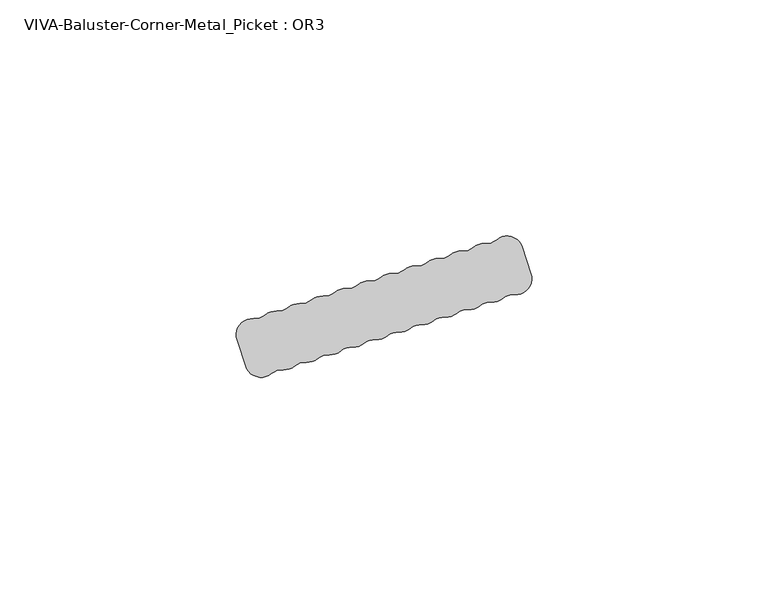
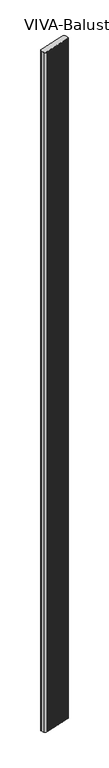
"""IFC4 building model written with IfcOpenShell, lengths in millimetres: railing geometry, VIVA-Baluster-Corner-Metal_Picket : OR3."""

from ifc_helpers import new_model, si_unit, frame, origin, place, context, project, spatial, polyline, circle_curve, source, transform, mapped, element, save
from ifc_brep_helpers import plane_surface, cylinder_surface, revolved_surface, advanced_brep


def viva_baluster_corner_metal_picket_or3_238191d5(model_context):
    return source(origin(), model_context, "Body", "AdvancedBrep", [
        advanced_brep(
        [(54.1877137, 92.323752, 1219.2), (48.7096318, 93.8952548, 1219.2), (46.2617341, 93.0998846, 1219.2), (43.8138364, 92.3045145, 1219.2), (41.3659387, 91.5091443, 1219.2), (38.918041, 90.7137741, 1219.2), (36.4701433, 89.9184039, 1219.2), (34.0222456, 89.1230338, 1219.2), (31.5743479, 88.3276636, 1219.2), (29.1264502, 87.5322934, 1219.2), (26.6785525, 86.7369232, 1219.2), (24.2306548, 85.9415531, 1219.2), (21.7827571, 85.1461829, 1219.2), (19.3348594, 84.3508127, 1219.2), (16.8869617, 83.5554425, 1219.2), (14.439064, 82.7600723, 1219.2), (11.9911663, 81.9647022, 1219.2), (9.5432686, 81.169332, 1219.2), (7.0953709, 80.3739618, 1219.2), (4.6474732, 79.5785916, 1219.2), (2.1995755, 78.7832215, 1219.2), (-0.2483222, 77.9878513, 1219.2), (-2.6962199, 77.1924811, 1219.2), (-6.204375, 72.7011728, 1219.2), (-4.4042945, 67.1610945, 1219.2), (1.0737875, 65.5895916, 1219.2), (3.5216852, 66.3849618, 1219.2), (5.9695829, 67.180332, 1219.2), (8.4174806, 67.9757021, 1219.2), (10.8653783, 68.7710723, 1219.2), (13.313276, 69.5664425, 1219.2), (15.7611737, 70.3618127, 1219.2), (18.2090714, 71.1571828, 1219.2), (20.6569691, 71.952553, 1219.2), (23.1048668, 72.7479232, 1219.2), (25.5527645, 73.5432934, 1219.2), (28.0006622, 74.3386636, 1219.2), (30.4485599, 75.1340337, 1219.2), (32.8964576, 75.9294039, 1219.2), (35.3443553, 76.7247741, 1219.2), (37.792253, 77.5201443, 1219.2), (40.2401507, 78.3155144, 1219.2), (42.6880484, 79.1108846, 1219.2), (45.1359461, 79.9062548, 1219.2), (47.5838438, 80.701625, 1219.2), (50.0317415, 81.4969951, 1219.2), (52.4796392, 82.2923653, 1219.2), (55.9877943, 86.7836736, 1219.2), (54.1877137, 92.323752, -245.8945017), (55.9877943, 86.7836736, -245.8945017), (52.4796392, 82.2923653, -245.8945017), (50.0317415, 81.4969951, -245.8945017), (47.5838438, 80.701625, -245.8945017), (45.1359461, 79.9062548, -245.8945017), (42.6880484, 79.1108846, -245.8945017), (40.2401507, 78.3155144, -245.8945017), (37.792253, 77.5201443, -245.8945017), (35.3443553, 76.7247741, -245.8945017), (32.8964576, 75.9294039, -245.8945017), (30.4485599, 75.1340337, -245.8945017), (28.0006622, 74.3386636, -245.8945017), (25.5527645, 73.5432934, -245.8945017), (23.1048668, 72.7479232, -245.8945017), (20.6569691, 71.952553, -245.8945017), (18.2090714, 71.1571828, -245.8945017), (15.7611737, 70.3618127, -245.8945017), (13.313276, 69.5664425, -245.8945017), (10.8653783, 68.7710723, -245.8945017), (8.4174806, 67.9757021, -245.8945017), (5.9695829, 67.180332, -245.8945017), (3.5216852, 66.3849618, -245.8945017), (1.0737875, 65.5895916, -245.8945017), (-4.4042945, 67.1610945, -245.8945017), (-6.204375, 72.7011728, -245.8945017), (-2.6962199, 77.1924811, -245.8945017), (-0.2483222, 77.9878513, -245.8945017), (2.1995755, 78.7832215, -245.8945017), (4.6474732, 79.5785916, -245.8945017), (7.0953709, 80.3739618, -245.8945017), (9.5432686, 81.169332, -245.8945017), (11.9911663, 81.9647022, -245.8945017), (14.439064, 82.7600723, -245.8945017), (16.8869617, 83.5554425, -245.8945017), (19.3348594, 84.3508127, -245.8945017), (21.7827571, 85.1461829, -245.8945017), (24.2306548, 85.9415531, -245.8945017), (26.6785525, 86.7369232, -245.8945017), (29.1264502, 87.5322934, -245.8945017), (31.5743479, 88.3276636, -245.8945017), (34.0222456, 89.1230338, -245.8945017), (36.4701433, 89.9184039, -245.8945017), (38.918041, 90.7137741, -245.8945017), (41.3659387, 91.5091443, -245.8945017), (43.8138364, 92.3045145, -245.8945017), (46.2617341, 93.0998846, -245.8945017), (48.7096318, 93.8952548, -245.8945017)],
        [
            (0, 1, circle_curve(frame((50.9185441, 91.2615344, 1219.2), z_axis=(0.0, 0.0, 1.0), x_axis=(1.0, 0.0, 0.0)), 3.4374084)),
            (1, 2, circle_curve(frame((46.5007196, 96.5289753, 1219.2), z_axis=(0.0, 0.0, -1.0), x_axis=(1.0, 0.0, 0.0)), 3.4374084)),
            (2, 3, circle_curve(frame((46.0227487, 89.670794, 1219.2), z_axis=(0.0, 0.0, 1.0), x_axis=(1.0, 0.0, 0.0)), 3.4374084)),
            (3, 4, circle_curve(frame((41.6049242, 94.9382349, 1219.2), z_axis=(0.0, 0.0, -1.0), x_axis=(1.0, 0.0, 0.0)), 3.4374084)),
            (4, 5, circle_curve(frame((41.1269533, 88.0800536, 1219.2), z_axis=(0.0, 0.0, 1.0), x_axis=(1.0, 0.0, 0.0)), 3.4374084)),
            (5, 6, circle_curve(frame((36.7091288, 93.3474946, 1219.2), z_axis=(0.0, 0.0, -1.0), x_axis=(1.0, 0.0, 0.0)), 3.4374084)),
            (6, 7, circle_curve(frame((36.2311579, 86.4893133, 1219.2), z_axis=(0.0, 0.0, 1.0), x_axis=(1.0, 0.0, 0.0)), 3.4374084)),
            (7, 8, circle_curve(frame((31.8133334, 91.7567542, 1219.2), z_axis=(0.0, 0.0, -1.0), x_axis=(1.0, 0.0, 0.0)), 3.4374084)),
            (8, 9, circle_curve(frame((31.3353625, 84.8985729, 1219.2), z_axis=(0.0, 0.0, 1.0), x_axis=(1.0, 0.0, 0.0)), 3.4374084)),
            (9, 10, circle_curve(frame((26.917538, 90.1660139, 1219.2), z_axis=(0.0, 0.0, -1.0), x_axis=(1.0, 0.0, 0.0)), 3.4374084)),
            (10, 11, circle_curve(frame((26.4395671, 83.3078326, 1219.2), z_axis=(0.0, 0.0, 1.0), x_axis=(1.0, 0.0, 0.0)), 3.4374084)),
            (11, 12, circle_curve(frame((22.0217426, 88.5752735, 1219.2), z_axis=(0.0, 0.0, -1.0), x_axis=(1.0, 0.0, 0.0)), 3.4374084)),
            (12, 13, circle_curve(frame((21.5437717, 81.7170922, 1219.2), z_axis=(0.0, 0.0, 1.0), x_axis=(1.0, 0.0, 0.0)), 3.4374084)),
            (13, 14, circle_curve(frame((17.1259472, 86.9845332, 1219.2), z_axis=(0.0, 0.0, -1.0), x_axis=(1.0, 0.0, 0.0)), 3.4374084)),
            (14, 15, circle_curve(frame((16.6479763, 80.1263519, 1219.2), z_axis=(0.0, 0.0, 1.0), x_axis=(1.0, 0.0, 0.0)), 3.4374084)),
            (15, 16, circle_curve(frame((12.2301518, 85.3937928, 1219.2), z_axis=(0.0, 0.0, -1.0), x_axis=(1.0, 0.0, 0.0)), 3.4374084)),
            (16, 17, circle_curve(frame((11.7521809, 78.5356115, 1219.2), z_axis=(0.0, 0.0, 1.0), x_axis=(1.0, 0.0, 0.0)), 3.4374084)),
            (17, 18, circle_curve(frame((7.3343564, 83.8030525, 1219.2), z_axis=(0.0, 0.0, -1.0), x_axis=(1.0, 0.0, 0.0)), 3.4374084)),
            (18, 19, circle_curve(frame((6.8563855, 76.9448712, 1219.2), z_axis=(0.0, 0.0, 1.0), x_axis=(1.0, 0.0, 0.0)), 3.4374084)),
            (19, 20, circle_curve(frame((2.438561, 82.2123121, 1219.2), z_axis=(0.0, 0.0, -1.0), x_axis=(1.0, 0.0, 0.0)), 3.4374084)),
            (20, 21, circle_curve(frame((1.9605901, 75.3541308, 1219.2), z_axis=(0.0, 0.0, 1.0), x_axis=(1.0, 0.0, 0.0)), 3.4374084)),
            (21, 22, circle_curve(frame((-2.4572344, 80.6215718, 1219.2), z_axis=(0.0, 0.0, -1.0), x_axis=(1.0, 0.0, 0.0)), 3.4374084)),
            (22, 23, circle_curve(frame((-2.9352053, 73.7633905, 1219.2), z_axis=(0.0, 0.0, 1.0), x_axis=(1.0, 0.0, 0.0)), 3.4374084)),
            (23, 24),
            (24, 25, circle_curve(frame((-1.1351248, 68.2233121, 1219.2), z_axis=(0.0, 0.0, 1.0), x_axis=(1.0, 0.0, 0.0)), 3.4374084)),
            (25, 26, circle_curve(frame((3.2826997, 62.9558711, 1219.2), z_axis=(0.0, 0.0, -1.0), x_axis=(1.0, 0.0, 0.0)), 3.4374084)),
            (26, 27, circle_curve(frame((3.7606706, 69.8140524, 1219.2), z_axis=(0.0, 0.0, 1.0), x_axis=(1.0, 0.0, 0.0)), 3.4374084)),
            (27, 28, circle_curve(frame((8.1784951, 64.5466115, 1219.2), z_axis=(0.0, 0.0, -1.0), x_axis=(1.0, 0.0, 0.0)), 3.4374084)),
            (28, 29, circle_curve(frame((8.656466, 71.4047928, 1219.2), z_axis=(0.0, 0.0, 1.0), x_axis=(1.0, 0.0, 0.0)), 3.4374084)),
            (29, 30, circle_curve(frame((13.0742905, 66.1373518, 1219.2), z_axis=(0.0, 0.0, -1.0), x_axis=(1.0, 0.0, 0.0)), 3.4374084)),
            (30, 31, circle_curve(frame((13.5522614, 72.9955331, 1219.2), z_axis=(0.0, 0.0, 1.0), x_axis=(1.0, 0.0, 0.0)), 3.4374084)),
            (31, 32, circle_curve(frame((17.9700859, 67.7280922, 1219.2), z_axis=(0.0, 0.0, -1.0), x_axis=(1.0, 0.0, 0.0)), 3.4374084)),
            (32, 33, circle_curve(frame((18.4480568, 74.5862735, 1219.2), z_axis=(0.0, 0.0, 1.0), x_axis=(1.0, 0.0, 0.0)), 3.4374084)),
            (33, 34, circle_curve(frame((22.8658813, 69.3188326, 1219.2), z_axis=(0.0, 0.0, -1.0), x_axis=(1.0, 0.0, 0.0)), 3.4374084)),
            (34, 35, circle_curve(frame((23.3438522, 76.1770139, 1219.2), z_axis=(0.0, 0.0, 1.0), x_axis=(1.0, 0.0, 0.0)), 3.4374084)),
            (35, 36, circle_curve(frame((27.7616767, 70.9095729, 1219.2), z_axis=(0.0, 0.0, -1.0), x_axis=(1.0, 0.0, 0.0)), 3.4374084)),
            (36, 37, circle_curve(frame((28.2396476, 77.7677542, 1219.2), z_axis=(0.0, 0.0, 1.0), x_axis=(1.0, 0.0, 0.0)), 3.4374084)),
            (37, 38, circle_curve(frame((32.6574721, 72.5003133, 1219.2), z_axis=(0.0, 0.0, -1.0), x_axis=(1.0, 0.0, 0.0)), 3.4374084)),
            (38, 39, circle_curve(frame((33.135443, 79.3584946, 1219.2), z_axis=(0.0, 0.0, 1.0), x_axis=(1.0, 0.0, 0.0)), 3.4374084)),
            (39, 40, circle_curve(frame((37.5532675, 74.0910536, 1219.2), z_axis=(0.0, 0.0, -1.0), x_axis=(1.0, 0.0, 0.0)), 3.4374084)),
            (40, 41, circle_curve(frame((38.0312384, 80.9492349, 1219.2), z_axis=(0.0, 0.0, 1.0), x_axis=(1.0, 0.0, 0.0)), 3.4374084)),
            (41, 42, circle_curve(frame((42.4490629, 75.681794, 1219.2), z_axis=(0.0, 0.0, -1.0), x_axis=(1.0, 0.0, 0.0)), 3.4374084)),
            (42, 43, circle_curve(frame((42.9270338, 82.5399753, 1219.2), z_axis=(0.0, 0.0, 1.0), x_axis=(1.0, 0.0, 0.0)), 3.4374084)),
            (43, 44, circle_curve(frame((47.3448583, 77.2725343, 1219.2), z_axis=(0.0, 0.0, -1.0), x_axis=(1.0, 0.0, 0.0)), 3.4374084)),
            (44, 45, circle_curve(frame((47.8228292, 84.1307156, 1219.2), z_axis=(0.0, 0.0, 1.0), x_axis=(1.0, 0.0, 0.0)), 3.4374084)),
            (45, 46, circle_curve(frame((52.2406537, 78.8632747, 1219.2), z_axis=(0.0, 0.0, -1.0), x_axis=(1.0, 0.0, 0.0)), 3.4374084)),
            (46, 47, circle_curve(frame((52.7186246, 85.721456, 1219.2), z_axis=(0.0, 0.0, 1.0), x_axis=(1.0, 0.0, 0.0)), 3.4374084)),
            (47, 0),
            (48, 49),
            (49, 50, circle_curve(frame((52.7186246, 85.721456, -245.8945017), z_axis=(0.0, 0.0, -1.0), x_axis=(1.0, 0.0, 0.0)), 3.4374084)),
            (50, 51, circle_curve(frame((52.2406537, 78.8632747, -245.8945017), z_axis=(0.0, 0.0, 1.0), x_axis=(1.0, 0.0, 0.0)), 3.4374084)),
            (51, 52, circle_curve(frame((47.8228292, 84.1307156, -245.8945017), z_axis=(0.0, 0.0, -1.0), x_axis=(1.0, 0.0, 0.0)), 3.4374084)),
            (52, 53, circle_curve(frame((47.3448583, 77.2725343, -245.8945017), z_axis=(0.0, 0.0, 1.0), x_axis=(1.0, 0.0, 0.0)), 3.4374084)),
            (53, 54, circle_curve(frame((42.9270338, 82.5399753, -245.8945017), z_axis=(0.0, 0.0, -1.0), x_axis=(1.0, 0.0, 0.0)), 3.4374084)),
            (54, 55, circle_curve(frame((42.4490629, 75.681794, -245.8945017), z_axis=(0.0, 0.0, 1.0), x_axis=(1.0, 0.0, 0.0)), 3.4374084)),
            (55, 56, circle_curve(frame((38.0312384, 80.9492349, -245.8945017), z_axis=(0.0, 0.0, -1.0), x_axis=(1.0, 0.0, 0.0)), 3.4374084)),
            (56, 57, circle_curve(frame((37.5532675, 74.0910536, -245.8945017), z_axis=(0.0, 0.0, 1.0), x_axis=(1.0, 0.0, 0.0)), 3.4374084)),
            (57, 58, circle_curve(frame((33.135443, 79.3584946, -245.8945017), z_axis=(0.0, 0.0, -1.0), x_axis=(1.0, 0.0, 0.0)), 3.4374084)),
            (58, 59, circle_curve(frame((32.6574721, 72.5003133, -245.8945017), z_axis=(0.0, 0.0, 1.0), x_axis=(1.0, 0.0, 0.0)), 3.4374084)),
            (59, 60, circle_curve(frame((28.2396476, 77.7677542, -245.8945017), z_axis=(0.0, 0.0, -1.0), x_axis=(1.0, 0.0, 0.0)), 3.4374084)),
            (60, 61, circle_curve(frame((27.7616767, 70.9095729, -245.8945017), z_axis=(0.0, 0.0, 1.0), x_axis=(1.0, 0.0, 0.0)), 3.4374084)),
            (61, 62, circle_curve(frame((23.3438522, 76.1770139, -245.8945017), z_axis=(0.0, 0.0, -1.0), x_axis=(1.0, 0.0, 0.0)), 3.4374084)),
            (62, 63, circle_curve(frame((22.8658813, 69.3188326, -245.8945017), z_axis=(0.0, 0.0, 1.0), x_axis=(1.0, 0.0, 0.0)), 3.4374084)),
            (63, 64, circle_curve(frame((18.4480568, 74.5862735, -245.8945017), z_axis=(0.0, 0.0, -1.0), x_axis=(1.0, 0.0, 0.0)), 3.4374084)),
            (64, 65, circle_curve(frame((17.9700859, 67.7280922, -245.8945017), z_axis=(0.0, 0.0, 1.0), x_axis=(1.0, 0.0, 0.0)), 3.4374084)),
            (65, 66, circle_curve(frame((13.5522614, 72.9955331, -245.8945017), z_axis=(0.0, 0.0, -1.0), x_axis=(1.0, 0.0, 0.0)), 3.4374084)),
            (66, 67, circle_curve(frame((13.0742905, 66.1373518, -245.8945017), z_axis=(0.0, 0.0, 1.0), x_axis=(1.0, 0.0, 0.0)), 3.4374084)),
            (67, 68, circle_curve(frame((8.656466, 71.4047928, -245.8945017), z_axis=(0.0, 0.0, -1.0), x_axis=(1.0, 0.0, 0.0)), 3.4374084)),
            (68, 69, circle_curve(frame((8.1784951, 64.5466115, -245.8945017), z_axis=(0.0, 0.0, 1.0), x_axis=(1.0, 0.0, 0.0)), 3.4374084)),
            (69, 70, circle_curve(frame((3.7606706, 69.8140524, -245.8945017), z_axis=(0.0, 0.0, -1.0), x_axis=(1.0, 0.0, 0.0)), 3.4374084)),
            (70, 71, circle_curve(frame((3.2826997, 62.9558711, -245.8945017), z_axis=(0.0, 0.0, 1.0), x_axis=(1.0, 0.0, 0.0)), 3.4374084)),
            (71, 72, circle_curve(frame((-1.1351248, 68.2233121, -245.8945017), z_axis=(0.0, 0.0, -1.0), x_axis=(1.0, 0.0, 0.0)), 3.4374084)),
            (72, 73),
            (73, 74, circle_curve(frame((-2.9352053, 73.7633905, -245.8945017), z_axis=(0.0, 0.0, -1.0), x_axis=(1.0, 0.0, 0.0)), 3.4374084)),
            (74, 75, circle_curve(frame((-2.4572344, 80.6215718, -245.8945017), z_axis=(0.0, 0.0, 1.0), x_axis=(1.0, 0.0, 0.0)), 3.4374084)),
            (75, 76, circle_curve(frame((1.9605901, 75.3541308, -245.8945017), z_axis=(0.0, 0.0, -1.0), x_axis=(1.0, 0.0, 0.0)), 3.4374084)),
            (76, 77, circle_curve(frame((2.438561, 82.2123121, -245.8945017), z_axis=(0.0, 0.0, 1.0), x_axis=(1.0, 0.0, 0.0)), 3.4374084)),
            (77, 78, circle_curve(frame((6.8563855, 76.9448712, -245.8945017), z_axis=(0.0, 0.0, -1.0), x_axis=(1.0, 0.0, 0.0)), 3.4374084)),
            (78, 79, circle_curve(frame((7.3343564, 83.8030525, -245.8945017), z_axis=(0.0, 0.0, 1.0), x_axis=(1.0, 0.0, 0.0)), 3.4374084)),
            (79, 80, circle_curve(frame((11.7521809, 78.5356115, -245.8945017), z_axis=(0.0, 0.0, -1.0), x_axis=(1.0, 0.0, 0.0)), 3.4374084)),
            (80, 81, circle_curve(frame((12.2301518, 85.3937928, -245.8945017), z_axis=(0.0, 0.0, 1.0), x_axis=(1.0, 0.0, 0.0)), 3.4374084)),
            (81, 82, circle_curve(frame((16.6479763, 80.1263519, -245.8945017), z_axis=(0.0, 0.0, -1.0), x_axis=(1.0, 0.0, 0.0)), 3.4374084)),
            (82, 83, circle_curve(frame((17.1259472, 86.9845332, -245.8945017), z_axis=(0.0, 0.0, 1.0), x_axis=(1.0, 0.0, 0.0)), 3.4374084)),
            (83, 84, circle_curve(frame((21.5437717, 81.7170922, -245.8945017), z_axis=(0.0, 0.0, -1.0), x_axis=(1.0, 0.0, 0.0)), 3.4374084)),
            (84, 85, circle_curve(frame((22.0217426, 88.5752735, -245.8945017), z_axis=(0.0, 0.0, 1.0), x_axis=(1.0, 0.0, 0.0)), 3.4374084)),
            (85, 86, circle_curve(frame((26.4395671, 83.3078326, -245.8945017), z_axis=(0.0, 0.0, -1.0), x_axis=(1.0, 0.0, 0.0)), 3.4374084)),
            (86, 87, circle_curve(frame((26.917538, 90.1660139, -245.8945017), z_axis=(0.0, 0.0, 1.0), x_axis=(1.0, 0.0, 0.0)), 3.4374084)),
            (87, 88, circle_curve(frame((31.3353625, 84.8985729, -245.8945017), z_axis=(0.0, 0.0, -1.0), x_axis=(1.0, 0.0, 0.0)), 3.4374084)),
            (88, 89, circle_curve(frame((31.8133334, 91.7567542, -245.8945017), z_axis=(0.0, 0.0, 1.0), x_axis=(1.0, 0.0, 0.0)), 3.4374084)),
            (89, 90, circle_curve(frame((36.2311579, 86.4893133, -245.8945017), z_axis=(0.0, 0.0, -1.0), x_axis=(1.0, 0.0, 0.0)), 3.4374084)),
            (90, 91, circle_curve(frame((36.7091288, 93.3474946, -245.8945017), z_axis=(0.0, 0.0, 1.0), x_axis=(1.0, 0.0, 0.0)), 3.4374084)),
            (91, 92, circle_curve(frame((41.1269533, 88.0800536, -245.8945017), z_axis=(0.0, 0.0, -1.0), x_axis=(1.0, 0.0, 0.0)), 3.4374084)),
            (92, 93, circle_curve(frame((41.6049242, 94.9382349, -245.8945017), z_axis=(0.0, 0.0, 1.0), x_axis=(1.0, 0.0, 0.0)), 3.4374084)),
            (93, 94, circle_curve(frame((46.0227487, 89.670794, -245.8945017), z_axis=(0.0, 0.0, -1.0), x_axis=(1.0, 0.0, 0.0)), 3.4374084)),
            (94, 95, circle_curve(frame((46.5007196, 96.5289753, -245.8945017), z_axis=(0.0, 0.0, 1.0), x_axis=(1.0, 0.0, 0.0)), 3.4374084)),
            (95, 48, circle_curve(frame((50.9185441, 91.2615344, -245.8945017), z_axis=(0.0, 0.0, -1.0), x_axis=(1.0, 0.0, 0.0)), 3.4374084)),
            (0, 48),
            (95, 1),
            (94, 2),
            (93, 3),
            (92, 4),
            (91, 5),
            (90, 6),
            (89, 7),
            (88, 8),
            (87, 9),
            (86, 10),
            (85, 11),
            (84, 12),
            (83, 13),
            (82, 14),
            (81, 15),
            (80, 16),
            (79, 17),
            (78, 18),
            (77, 19),
            (76, 20),
            (75, 21),
            (74, 22),
            (73, 23),
            (72, 24),
            (71, 25),
            (70, 26),
            (69, 27),
            (68, 28),
            (67, 29),
            (66, 30),
            (65, 31),
            (64, 32),
            (63, 33),
            (62, 34),
            (61, 35),
            (60, 36),
            (59, 37),
            (58, 38),
            (57, 39),
            (56, 40),
            (55, 41),
            (54, 42),
            (53, 43),
            (52, 44),
            (51, 45),
            (50, 46),
            (49, 47),
        ],
        [
            plane_surface(frame((54.3559525, 91.2615344, 1219.2), z_axis=(0.0, 0.0, 1.0), x_axis=(0.0, 1.0, 0.0))),
            plane_surface(frame((54.3559525, 91.2615344, -245.8945017), z_axis=(0.0, 0.0, -1.0), x_axis=(0.0, -1.0, 0.0))),
            cylinder_surface(frame((50.9185441, 91.2615344, -245.8945017), z_axis=(0.0, 0.0, 1.0), x_axis=(1.0, 0.0, 0.0)), 3.4374084),
            revolved_surface(polyline([(49.938128, 96.5289753, -245.8945017), (49.938128, 96.5289753, 1219.2)]), (46.5007196, 96.5289753, -245.8945017), (0.0, 0.0, -1.0)),
            cylinder_surface(frame((46.0227487, 89.670794, -245.8945017), z_axis=(0.0, 0.0, 1.0), x_axis=(1.0, 0.0, 0.0)), 3.4374084),
            revolved_surface(polyline([(45.0423326, 94.9382349, -245.8945017), (45.0423326, 94.9382349, 1219.2)]), (41.6049242, 94.9382349, -245.8945017), (0.0, 0.0, -1.0)),
            cylinder_surface(frame((41.1269533, 88.0800536, -245.8945017), z_axis=(0.0, 0.0, 1.0), x_axis=(1.0, 0.0, 0.0)), 3.4374084),
            revolved_surface(polyline([(40.146537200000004, 93.3474946, -245.8945017), (40.146537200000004, 93.3474946, 1219.2)]), (36.7091288, 93.3474946, -245.8945017), (0.0, 0.0, -1.0)),
            cylinder_surface(frame((36.2311579, 86.4893133, -245.8945017), z_axis=(0.0, 0.0, 1.0), x_axis=(1.0, 0.0, 0.0)), 3.4374084),
            revolved_surface(polyline([(35.2507418, 91.7567542, -245.8945017), (35.2507418, 91.7567542, 1219.2)]), (31.8133334, 91.7567542, -245.8945017), (0.0, 0.0, -1.0)),
            cylinder_surface(frame((31.3353625, 84.8985729, -245.8945017), z_axis=(0.0, 0.0, 1.0), x_axis=(1.0, 0.0, 0.0)), 3.4374084),
            revolved_surface(polyline([(30.3549464, 90.1660139, -245.8945017), (30.3549464, 90.1660139, 1219.2)]), (26.917538, 90.1660139, -245.8945017), (0.0, 0.0, -1.0)),
            cylinder_surface(frame((26.4395671, 83.3078326, -245.8945017), z_axis=(0.0, 0.0, 1.0), x_axis=(1.0, 0.0, 0.0)), 3.4374084),
            revolved_surface(polyline([(25.459151, 88.5752735, -245.8945017), (25.459151, 88.5752735, 1219.2)]), (22.0217426, 88.5752735, -245.8945017), (0.0, 0.0, -1.0)),
            cylinder_surface(frame((21.5437717, 81.7170922, -245.8945017), z_axis=(0.0, 0.0, 1.0), x_axis=(1.0, 0.0, 0.0)), 3.4374084),
            revolved_surface(polyline([(20.563355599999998, 86.9845332, -245.8945017), (20.563355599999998, 86.9845332, 1219.2)]), (17.1259472, 86.9845332, -245.8945017), (0.0, 0.0, -1.0)),
            cylinder_surface(frame((16.6479763, 80.1263519, -245.8945017), z_axis=(0.0, 0.0, 1.0), x_axis=(1.0, 0.0, 0.0)), 3.4374084),
            revolved_surface(polyline([(15.6675602, 85.3937928, -245.8945017), (15.6675602, 85.3937928, 1219.2)]), (12.2301518, 85.3937928, -245.8945017), (0.0, 0.0, -1.0)),
            cylinder_surface(frame((11.7521809, 78.5356115, -245.8945017), z_axis=(0.0, 0.0, 1.0), x_axis=(1.0, 0.0, 0.0)), 3.4374084),
            revolved_surface(polyline([(10.7717648, 83.8030525, -245.8945017), (10.7717648, 83.8030525, 1219.2)]), (7.3343564, 83.8030525, -245.8945017), (0.0, 0.0, -1.0)),
            cylinder_surface(frame((6.8563855, 76.9448712, -245.8945017), z_axis=(0.0, 0.0, 1.0), x_axis=(1.0, 0.0, 0.0)), 3.4374084),
            revolved_surface(polyline([(5.8759694, 82.2123121, -245.8945017), (5.8759694, 82.2123121, 1219.2)]), (2.438561, 82.2123121, -245.8945017), (0.0, 0.0, -1.0)),
            cylinder_surface(frame((1.9605901, 75.3541308, -245.8945017), z_axis=(0.0, 0.0, 1.0), x_axis=(1.0, 0.0, 0.0)), 3.4374084),
            revolved_surface(polyline([(0.9801739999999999, 80.6215718, -245.8945017), (0.9801739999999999, 80.6215718, 1219.2)]), (-2.4572344, 80.6215718, -245.8945017), (0.0, 0.0, -1.0)),
            cylinder_surface(frame((-2.9352053, 73.7633905, -245.8945017), z_axis=(0.0, 0.0, 1.0), x_axis=(1.0, 0.0, 0.0)), 3.4374084),
            plane_surface(frame((-6.204375, 72.7011728, 1219.2), z_axis=(-0.9510565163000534, -0.3090169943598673, 0.0), x_axis=(0.0, 0.0, -1.0))),
            cylinder_surface(frame((-1.1351248, 68.2233121, -245.8945017), z_axis=(0.0, 0.0, 1.0), x_axis=(1.0, 0.0, 0.0)), 3.4374084),
            revolved_surface(polyline([(6.7201081, 62.9558711, -245.8945017), (6.7201081, 62.9558711, 1219.2)]), (3.2826997, 62.9558711, -245.8945017), (0.0, 0.0, -1.0)),
            cylinder_surface(frame((3.7606706, 69.8140524, -245.8945017), z_axis=(0.0, 0.0, 1.0), x_axis=(1.0, 0.0, 0.0)), 3.4374084),
            revolved_surface(polyline([(11.615903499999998, 64.5466115, -245.8945017), (11.615903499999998, 64.5466115, 1219.2)]), (8.1784951, 64.5466115, -245.8945017), (0.0, 0.0, -1.0)),
            cylinder_surface(frame((8.656466, 71.4047928, -245.8945017), z_axis=(0.0, 0.0, 1.0), x_axis=(1.0, 0.0, 0.0)), 3.4374084),
            revolved_surface(polyline([(16.5116989, 66.1373518, -245.8945017), (16.5116989, 66.1373518, 1219.2)]), (13.0742905, 66.1373518, -245.8945017), (0.0, 0.0, -1.0)),
            cylinder_surface(frame((13.5522614, 72.9955331, -245.8945017), z_axis=(0.0, 0.0, 1.0), x_axis=(1.0, 0.0, 0.0)), 3.4374084),
            revolved_surface(polyline([(21.4074943, 67.7280922, -245.8945017), (21.4074943, 67.7280922, 1219.2)]), (17.9700859, 67.7280922, -245.8945017), (0.0, 0.0, -1.0)),
            cylinder_surface(frame((18.4480568, 74.5862735, -245.8945017), z_axis=(0.0, 0.0, 1.0), x_axis=(1.0, 0.0, 0.0)), 3.4374084),
            revolved_surface(polyline([(26.3032897, 69.3188326, -245.8945017), (26.3032897, 69.3188326, 1219.2)]), (22.8658813, 69.3188326, -245.8945017), (0.0, 0.0, -1.0)),
            cylinder_surface(frame((23.3438522, 76.1770139, -245.8945017), z_axis=(0.0, 0.0, 1.0), x_axis=(1.0, 0.0, 0.0)), 3.4374084),
            revolved_surface(polyline([(31.199085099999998, 70.9095729, -245.8945017), (31.199085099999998, 70.9095729, 1219.2)]), (27.7616767, 70.9095729, -245.8945017), (0.0, 0.0, -1.0)),
            cylinder_surface(frame((28.2396476, 77.7677542, -245.8945017), z_axis=(0.0, 0.0, 1.0), x_axis=(1.0, 0.0, 0.0)), 3.4374084),
            revolved_surface(polyline([(36.0948805, 72.5003133, -245.8945017), (36.0948805, 72.5003133, 1219.2)]), (32.6574721, 72.5003133, -245.8945017), (0.0, 0.0, -1.0)),
            cylinder_surface(frame((33.135443, 79.3584946, -245.8945017), z_axis=(0.0, 0.0, 1.0), x_axis=(1.0, 0.0, 0.0)), 3.4374084),
            revolved_surface(polyline([(40.9906759, 74.0910536, -245.8945017), (40.9906759, 74.0910536, 1219.2)]), (37.5532675, 74.0910536, -245.8945017), (0.0, 0.0, -1.0)),
            cylinder_surface(frame((38.0312384, 80.9492349, -245.8945017), z_axis=(0.0, 0.0, 1.0), x_axis=(1.0, 0.0, 0.0)), 3.4374084),
            revolved_surface(polyline([(45.886471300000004, 75.681794, -245.8945017), (45.886471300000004, 75.681794, 1219.2)]), (42.4490629, 75.681794, -245.8945017), (0.0, 0.0, -1.0)),
            cylinder_surface(frame((42.9270338, 82.5399753, -245.8945017), z_axis=(0.0, 0.0, 1.0), x_axis=(1.0, 0.0, 0.0)), 3.4374084),
            revolved_surface(polyline([(50.7822667, 77.2725343, -245.8945017), (50.7822667, 77.2725343, 1219.2)]), (47.3448583, 77.2725343, -245.8945017), (0.0, 0.0, -1.0)),
            cylinder_surface(frame((47.8228292, 84.1307156, -245.8945017), z_axis=(0.0, 0.0, 1.0), x_axis=(1.0, 0.0, 0.0)), 3.4374084),
            revolved_surface(polyline([(55.678062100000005, 78.8632747, -245.8945017), (55.678062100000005, 78.8632747, 1219.2)]), (52.2406537, 78.8632747, -245.8945017), (0.0, 0.0, -1.0)),
            cylinder_surface(frame((52.7186246, 85.721456, -245.8945017), z_axis=(0.0, 0.0, 1.0), x_axis=(1.0, 0.0, 0.0)), 3.4374084),
            plane_surface(frame((55.9877943, 86.7836736, 1219.2), z_axis=(0.9510565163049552, 0.3090169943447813, 0.0), x_axis=(0.0, 0.0, -1.0))),
        ],
        [
            (0, [[1, 2, 3, 4, 5, 6, 7, 8, 9, 10, 11, 12, 13, 14, 15, 16, 17, 18, 19, 20, 21, 22, 23, 24, 25, 26, 27, 28, 29, 30, 31, 32, 33, 34, 35, 36, 37, 38, 39, 40, 41, 42, 43, 44, 45, 46, 47, 48]]),
            (1, [[49, 50, 51, 52, 53, 54, 55, 56, 57, 58, 59, 60, 61, 62, 63, 64, 65, 66, 67, 68, 69, 70, 71, 72, 73, 74, 75, 76, 77, 78, 79, 80, 81, 82, 83, 84, 85, 86, 87, 88, 89, 90, 91, 92, 93, 94, 95, 96]]),
            (2, [[-1, 97, -96, 98]]),
            (3, [[-2, -98, -95, 99]]),
            (4, [[-3, -99, -94, 100]]),
            (5, [[-4, -100, -93, 101]]),
            (6, [[-5, -101, -92, 102]]),
            (7, [[-6, -102, -91, 103]]),
            (8, [[-7, -103, -90, 104]]),
            (9, [[-8, -104, -89, 105]]),
            (10, [[-9, -105, -88, 106]]),
            (11, [[-10, -106, -87, 107]]),
            (12, [[-11, -107, -86, 108]]),
            (13, [[-12, -108, -85, 109]]),
            (14, [[-13, -109, -84, 110]]),
            (15, [[-14, -110, -83, 111]]),
            (16, [[-15, -111, -82, 112]]),
            (17, [[-16, -112, -81, 113]]),
            (18, [[-17, -113, -80, 114]]),
            (19, [[-18, -114, -79, 115]]),
            (20, [[-19, -115, -78, 116]]),
            (21, [[-20, -116, -77, 117]]),
            (22, [[-21, -117, -76, 118]]),
            (23, [[-22, -118, -75, 119]]),
            (24, [[-23, -119, -74, 120]]),
            (25, [[-24, -120, -73, 121]]),
            (26, [[-25, -121, -72, 122]]),
            (27, [[-26, -122, -71, 123]]),
            (28, [[-27, -123, -70, 124]]),
            (29, [[-28, -124, -69, 125]]),
            (30, [[-29, -125, -68, 126]]),
            (31, [[-30, -126, -67, 127]]),
            (32, [[-31, -127, -66, 128]]),
            (33, [[-32, -128, -65, 129]]),
            (34, [[-33, -129, -64, 130]]),
            (35, [[-34, -130, -63, 131]]),
            (36, [[-35, -131, -62, 132]]),
            (37, [[-36, -132, -61, 133]]),
            (38, [[-37, -133, -60, 134]]),
            (39, [[-38, -134, -59, 135]]),
            (40, [[-39, -135, -58, 136]]),
            (41, [[-40, -136, -57, 137]]),
            (42, [[-41, -137, -56, 138]]),
            (43, [[-42, -138, -55, 139]]),
            (44, [[-43, -139, -54, 140]]),
            (45, [[-44, -140, -53, 141]]),
            (46, [[-45, -141, -52, 142]]),
            (47, [[-46, -142, -51, 143]]),
            (48, [[-47, -143, -50, 144]]),
            (49, [[-48, -144, -49, -97]]),
        ],
    ),
    ])


if __name__ == "__main__":
    model = new_model("IFC4")
    model_context = context("Model", 3, world=origin())
    ifc_project = project(units=[si_unit("LENGTHUNIT", "METRE", prefix="MILLI")], contexts=[model_context])
    site = spatial("IfcSite", under=ifc_project)
    building = spatial("IfcBuilding", under=site)
    placement = place(None, origin())
    viva_baluster_corner_metal_picket_or3_shape = viva_baluster_corner_metal_picket_or3_238191d5(model_context)
    element("IfcRailing", 1, ObjectType="VIVA-Baluster-Corner-Metal_Picket : OR3", at=placement, inside=building, context=model_context, shape_type="MappedRepresentation", body=[
        mapped(viva_baluster_corner_metal_picket_or3_shape, transform((0.0, 0.0, 0.0), x_axis=(1.0, 0.0, 0.0), y_axis=(0.0, 1.0, 0.0), z_axis=(0.0, 0.0, 1.0))),
    ])
    save(model, "model.ifc")
